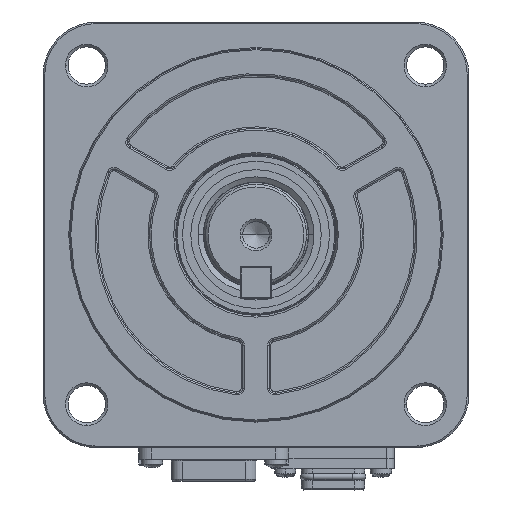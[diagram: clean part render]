
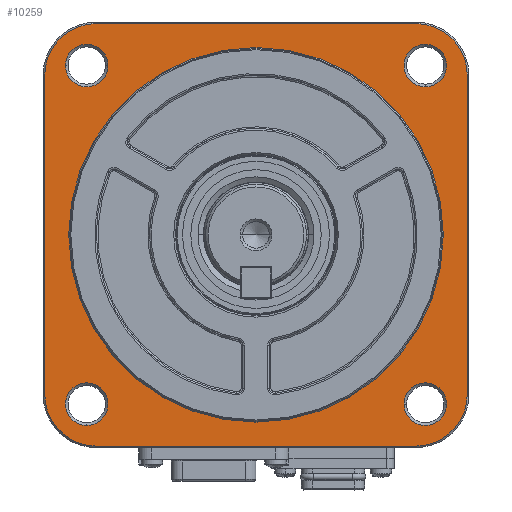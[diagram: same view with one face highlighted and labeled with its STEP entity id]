
A CAD part, left-side view. The second image highlights one B-rep face of the part: STEP entity #10259.
In plain terms, the highlighted planar face has unit normal (-1, 0, 0).
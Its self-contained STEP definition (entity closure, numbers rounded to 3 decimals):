
#1534=CARTESIAN_POINT('',(-1.5,30.,-30.));
#1535=DIRECTION('',(1.,0.,0.));
#1536=DIRECTION('',(0.,0.,-1.));
#1537=AXIS2_PLACEMENT_3D('',#1534,#1535,#1536);
#1539=DIRECTION('',(0.,0.,1.));
#1540=VECTOR('',#1539,60.);
#1541=CARTESIAN_POINT('',(-1.5,39.7,
-30.));
#1542=LINE('',#1541,#1540);
#1543=CARTESIAN_POINT('',(-1.5,30.,30.));
#1544=DIRECTION('',(1.,0.,0.));
#1545=DIRECTION('',(0.,1.,0.));
#1546=AXIS2_PLACEMENT_3D('',#1543,#1544,#1545);
#1548=DIRECTION('',(0.,-1.,0.));
#1549=VECTOR('',#1548,60.);
#1550=CARTESIAN_POINT('',(-1.5,30.,39.7));
#1551=LINE('',#1550,#1549);
#1552=CARTESIAN_POINT('',(-1.5,-30.,30.));
#1553=DIRECTION('',(1.,0.,0.));
#1554=DIRECTION('',(0.,0.,1.));
#1555=AXIS2_PLACEMENT_3D('',#1552,#1553,#1554);
#1557=DIRECTION('',(0.,0.,-1.));
#1558=VECTOR('',#1557,60.);
#1559=CARTESIAN_POINT('',(-1.5,-39.7,
30.));
#1560=LINE('',#1559,#1558);
#1561=CARTESIAN_POINT('',(-1.5,-30.,-30.));
#1562=DIRECTION('',(1.,0.,0.));
#1563=DIRECTION('',(0.,-1.,0.));
#1564=AXIS2_PLACEMENT_3D('',#1561,#1562,#1563);
#1566=DIRECTION('',(0.,1.,0.));
#1567=VECTOR('',#1566,60.);
#1568=CARTESIAN_POINT('',(-1.5,-30.,
-39.7));
#1569=LINE('',#1568,#1567);
#1570=CARTESIAN_POINT('',(-1.5,31.82,-31.82));
#1571=DIRECTION('',(-1.,0.,0.));
#1572=DIRECTION('',(0.,0.,1.));
#1573=AXIS2_PLACEMENT_3D('',#1570,#1571,#1572);
#1575=CARTESIAN_POINT('',(-1.5,31.82,-31.82));
#1576=DIRECTION('',(-1.,0.,0.));
#1577=DIRECTION('',(0.,0.,-1.));
#1578=AXIS2_PLACEMENT_3D('',#1575,#1576,#1577);
#1580=CARTESIAN_POINT('',(-1.5,-31.82,31.82));
#1581=DIRECTION('',(-1.,0.,0.));
#1582=DIRECTION('',(0.,0.,1.));
#1583=AXIS2_PLACEMENT_3D('',#1580,#1581,#1582);
#1585=CARTESIAN_POINT('',(-1.5,-31.82,31.82));
#1586=DIRECTION('',(-1.,0.,0.));
#1587=DIRECTION('',(0.,0.,-1.));
#1588=AXIS2_PLACEMENT_3D('',#1585,#1586,#1587);
#1590=CARTESIAN_POINT('',(-1.5,-31.82,-31.82));
#1591=DIRECTION('',(-1.,0.,0.));
#1592=DIRECTION('',(0.,1.,0.));
#1593=AXIS2_PLACEMENT_3D('',#1590,#1591,#1592);
#1595=CARTESIAN_POINT('',(-1.5,-31.82,-31.82));
#1596=DIRECTION('',(-1.,0.,0.));
#1597=DIRECTION('',(0.,0.,-1.));
#1598=AXIS2_PLACEMENT_3D('',#1595,#1596,#1597);
#1600=CARTESIAN_POINT('',(-1.5,-31.82,-31.82));
#1601=DIRECTION('',(-1.,0.,0.));
#1602=DIRECTION('',(0.,-1.,0.));
#1603=AXIS2_PLACEMENT_3D('',#1600,#1601,#1602);
#1605=CARTESIAN_POINT('',(-1.5,-31.82,-31.82));
#1606=DIRECTION('',(-1.,0.,0.));
#1607=DIRECTION('',(0.,0.,1.));
#1608=AXIS2_PLACEMENT_3D('',#1605,#1606,#1607);
#1610=CARTESIAN_POINT('',(-1.5,0.,0.));
#1611=DIRECTION('',(-1.,0.,0.));
#1612=DIRECTION('',(0.,1.,0.));
#1613=AXIS2_PLACEMENT_3D('',#1610,#1611,#1612);
#1615=CARTESIAN_POINT('',(-1.5,0.,0.));
#1616=DIRECTION('',(-1.,0.,0.));
#1617=DIRECTION('',(0.,0.,-1.));
#1618=AXIS2_PLACEMENT_3D('',#1615,#1616,#1617);
#1620=CARTESIAN_POINT('',(-1.5,0.,0.));
#1621=DIRECTION('',(-1.,0.,0.));
#1622=DIRECTION('',(0.,-1.,0.));
#1623=AXIS2_PLACEMENT_3D('',#1620,#1621,#1622);
#1625=CARTESIAN_POINT('',(-1.5,0.,0.));
#1626=DIRECTION('',(-1.,0.,0.));
#1627=DIRECTION('',(0.,0.,1.));
#1628=AXIS2_PLACEMENT_3D('',#1625,#1626,#1627);
#1630=CARTESIAN_POINT('',(-1.5,31.82,31.82));
#1631=DIRECTION('',(-1.,0.,0.));
#1632=DIRECTION('',(0.,1.,0.));
#1633=AXIS2_PLACEMENT_3D('',#1630,#1631,#1632);
#1635=CARTESIAN_POINT('',(-1.5,31.82,31.82));
#1636=DIRECTION('',(-1.,0.,0.));
#1637=DIRECTION('',(0.,0.,-1.));
#1638=AXIS2_PLACEMENT_3D('',#1635,#1636,#1637);
#1640=CARTESIAN_POINT('',(-1.5,31.82,31.82));
#1641=DIRECTION('',(-1.,0.,0.));
#1642=DIRECTION('',(0.,-1.,0.));
#1643=AXIS2_PLACEMENT_3D('',#1640,#1641,#1642);
#1645=CARTESIAN_POINT('',(-1.5,31.82,31.82));
#1646=DIRECTION('',(-1.,0.,0.));
#1647=DIRECTION('',(0.,0.,1.));
#1648=AXIS2_PLACEMENT_3D('',#1645,#1646,#1647);
#5131=CARTESIAN_POINT('',(-1.5,30.,39.7));
#5132=CARTESIAN_POINT('',(-1.5,-30.,
39.7));
#5133=VERTEX_POINT('',#5131);
#5134=VERTEX_POINT('',#5132);
#5135=CARTESIAN_POINT('',(-1.5,30.,-39.7));
#5136=CARTESIAN_POINT('',(-1.5,39.7,-30.));
#5137=VERTEX_POINT('',#5135);
#5138=VERTEX_POINT('',#5136);
#5139=CARTESIAN_POINT('',(-1.5,39.7,30.));
#5140=VERTEX_POINT('',#5139);
#5141=CARTESIAN_POINT('',(-1.5,-39.7,30.));
#5142=VERTEX_POINT('',#5141);
#5143=CARTESIAN_POINT('',(-1.5,-39.7,
-30.));
#5144=VERTEX_POINT('',#5143);
#5145=CARTESIAN_POINT('',(-1.5,-30.,-39.7));
#5146=VERTEX_POINT('',#5145);
#5147=CARTESIAN_POINT('',(-1.5,31.82,-27.82));
#5148=CARTESIAN_POINT('',(-1.5,31.82,-35.82));
#5149=VERTEX_POINT('',#5147);
#5150=VERTEX_POINT('',#5148);
#5151=CARTESIAN_POINT('',(-1.5,-31.82,35.82));
#5152=CARTESIAN_POINT('',(-1.5,-31.82,27.82));
#5153=VERTEX_POINT('',#5151);
#5154=VERTEX_POINT('',#5152);
#5155=CARTESIAN_POINT('',(-1.5,-31.82,-35.82));
#5156=CARTESIAN_POINT('',(-1.5,-35.82,-31.82));
#5157=VERTEX_POINT('',#5155);
#5158=VERTEX_POINT('',#5156);
#5159=CARTESIAN_POINT('',(-1.5,-27.82,-31.82));
#5160=VERTEX_POINT('',#5159);
#5161=CARTESIAN_POINT('',(-1.5,-31.82,-27.82));
#5162=VERTEX_POINT('',#5161);
#5163=CARTESIAN_POINT('',(-1.5,0.,-35.2));
#5164=CARTESIAN_POINT('',(-1.5,-35.2,0.));
#5165=VERTEX_POINT('',#5163);
#5166=VERTEX_POINT('',#5164);
#5167=CARTESIAN_POINT('',(-1.5,35.2,0.));
#5168=VERTEX_POINT('',#5167);
#5169=CARTESIAN_POINT('',(-1.5,0.,35.2));
#5170=VERTEX_POINT('',#5169);
#5171=CARTESIAN_POINT('',(-1.5,31.82,27.82));
#5172=CARTESIAN_POINT('',(-1.5,27.82,31.82));
#5173=VERTEX_POINT('',#5171);
#5174=VERTEX_POINT('',#5172);
#5175=CARTESIAN_POINT('',(-1.5,35.82,31.82));
#5176=VERTEX_POINT('',#5175);
#5177=CARTESIAN_POINT('',(-1.5,31.82,35.82));
#5178=VERTEX_POINT('',#5177);
#10195=CARTESIAN_POINT('',(-1.5,0.,0.));
#10196=DIRECTION('',(1.,0.,0.));
#10197=DIRECTION('',(0.,-1.,0.));
#10198=AXIS2_PLACEMENT_3D('',#10195,#10196,#10197);
#10199=PLANE('',#10198);
#10201=ORIENTED_EDGE('',*,*,#10200,.T.);
#10203=ORIENTED_EDGE('',*,*,#10202,.T.);
#10205=ORIENTED_EDGE('',*,*,#10204,.T.);
#10207=ORIENTED_EDGE('',*,*,#10206,.T.);
#10209=ORIENTED_EDGE('',*,*,#10208,.T.);
#10211=ORIENTED_EDGE('',*,*,#10210,.T.);
#10213=ORIENTED_EDGE('',*,*,#10212,.T.);
#10214=ORIENTED_EDGE('',*,*,#10185,.T.);
#10215=EDGE_LOOP('',(#10201,#10203,#10205,#10207,#10209,#10211,#10213,#10214));
#10216=FACE_OUTER_BOUND('',#10215,.F.);
#10218=ORIENTED_EDGE('',*,*,#10217,.T.);
#10220=ORIENTED_EDGE('',*,*,#10219,.T.);
#10221=EDGE_LOOP('',(#10218,#10220));
#10222=FACE_BOUND('',#10221,.F.);
#10224=ORIENTED_EDGE('',*,*,#10223,.T.);
#10226=ORIENTED_EDGE('',*,*,#10225,.T.);
#10227=EDGE_LOOP('',(#10224,#10226));
#10228=FACE_BOUND('',#10227,.F.);
#10230=ORIENTED_EDGE('',*,*,#10229,.T.);
#10232=ORIENTED_EDGE('',*,*,#10231,.T.);
#10234=ORIENTED_EDGE('',*,*,#10233,.T.);
#10236=ORIENTED_EDGE('',*,*,#10235,.T.);
#10237=EDGE_LOOP('',(#10230,#10232,#10234,#10236));
#10238=FACE_BOUND('',#10237,.F.);
#10240=ORIENTED_EDGE('',*,*,#10239,.T.);
#10242=ORIENTED_EDGE('',*,*,#10241,.T.);
#10244=ORIENTED_EDGE('',*,*,#10243,.T.);
#10246=ORIENTED_EDGE('',*,*,#10245,.T.);
#10247=EDGE_LOOP('',(#10240,#10242,#10244,#10246));
#10248=FACE_BOUND('',#10247,.F.);
#10250=ORIENTED_EDGE('',*,*,#10249,.T.);
#10252=ORIENTED_EDGE('',*,*,#10251,.T.);
#10254=ORIENTED_EDGE('',*,*,#10253,.T.);
#10256=ORIENTED_EDGE('',*,*,#10255,.T.);
#10257=EDGE_LOOP('',(#10250,#10252,#10254,#10256));
#10258=FACE_BOUND('',#10257,.F.);
#10259=ADVANCED_FACE('',(#10216,#10222,#10228,#10238,#10248,#10258),#10199,.F.);
#1538=CIRCLE('',#1537,9.7);
#1547=CIRCLE('',#1546,9.7);
#1556=CIRCLE('',#1555,9.7);
#1565=CIRCLE('',#1564,9.7);
#1574=CIRCLE('',#1573,4.);
#1579=CIRCLE('',#1578,4.);
#1584=CIRCLE('',#1583,4.);
#1589=CIRCLE('',#1588,4.);
#1594=CIRCLE('',#1593,4.);
#1599=CIRCLE('',#1598,4.);
#1604=CIRCLE('',#1603,4.);
#1609=CIRCLE('',#1608,4.);
#1614=CIRCLE('',#1613,35.2);
#1619=CIRCLE('',#1618,35.2);
#1624=CIRCLE('',#1623,35.2);
#1629=CIRCLE('',#1628,35.2);
#1634=CIRCLE('',#1633,4.);
#1639=CIRCLE('',#1638,4.);
#1644=CIRCLE('',#1643,4.);
#1649=CIRCLE('',#1648,4.);
#10185=EDGE_CURVE('',#5146,#5137,#1569,.T.);
#10200=EDGE_CURVE('',#5137,#5138,#1538,.T.);
#10202=EDGE_CURVE('',#5138,#5140,#1542,.T.);
#10204=EDGE_CURVE('',#5140,#5133,#1547,.T.);
#10206=EDGE_CURVE('',#5133,#5134,#1551,.T.);
#10208=EDGE_CURVE('',#5134,#5142,#1556,.T.);
#10210=EDGE_CURVE('',#5142,#5144,#1560,.T.);
#10212=EDGE_CURVE('',#5144,#5146,#1565,.T.);
#10217=EDGE_CURVE('',#5149,#5150,#1574,.T.);
#10219=EDGE_CURVE('',#5150,#5149,#1579,.T.);
#10223=EDGE_CURVE('',#5153,#5154,#1584,.T.);
#10225=EDGE_CURVE('',#5154,#5153,#1589,.T.);
#10229=EDGE_CURVE('',#5160,#5157,#1594,.T.);
#10231=EDGE_CURVE('',#5157,#5158,#1599,.T.);
#10233=EDGE_CURVE('',#5158,#5162,#1604,.T.);
#10235=EDGE_CURVE('',#5162,#5160,#1609,.T.);
#10239=EDGE_CURVE('',#5168,#5165,#1614,.T.);
#10241=EDGE_CURVE('',#5165,#5166,#1619,.T.);
#10243=EDGE_CURVE('',#5166,#5170,#1624,.T.);
#10245=EDGE_CURVE('',#5170,#5168,#1629,.T.);
#10249=EDGE_CURVE('',#5176,#5173,#1634,.T.);
#10251=EDGE_CURVE('',#5173,#5174,#1639,.T.);
#10253=EDGE_CURVE('',#5174,#5178,#1644,.T.);
#10255=EDGE_CURVE('',#5178,#5176,#1649,.T.);
